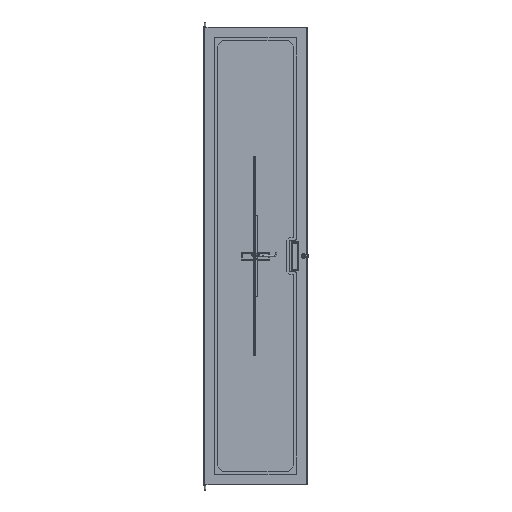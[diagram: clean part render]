
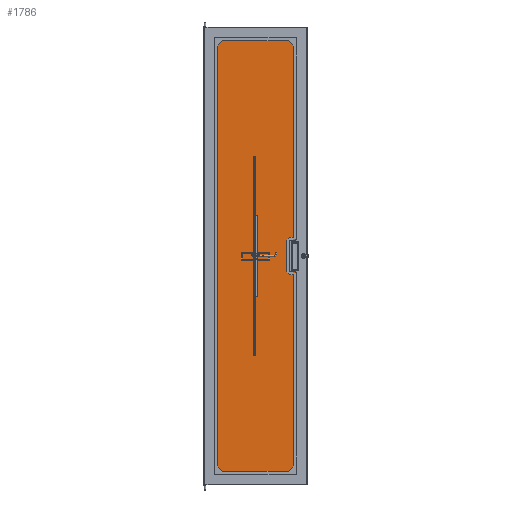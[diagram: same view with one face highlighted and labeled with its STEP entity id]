
A CAD part, front view. The second image highlights one B-rep face of the part: STEP entity #1786.
In plain terms, the highlighted planar face has unit normal (0, -1, 0).
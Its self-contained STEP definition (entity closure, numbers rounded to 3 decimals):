
#1786 = ADVANCED_FACE( '', ( #2587 ), #2588, .T. );
#2587 = FACE_OUTER_BOUND( '', #3609, .T. );
#2588 = PLANE( '', #3610 );
#3609 = EDGE_LOOP( '', ( #5954, #5955, #5956, #5957, #5958, #5959, #5960, #5961, #5962, #5963, #5964, #5965 ) );
#3610 = AXIS2_PLACEMENT_3D( '', #5966, #5967, #5968 );
#5954 = ORIENTED_EDGE( '', *, *, #6967, .T. );
#5955 = ORIENTED_EDGE( '', *, *, #6971, .T. );
#5956 = ORIENTED_EDGE( '', *, *, #6974, .T. );
#5957 = ORIENTED_EDGE( '', *, *, #6975, .T. );
#5958 = ORIENTED_EDGE( '', *, *, #6976, .T. );
#5959 = ORIENTED_EDGE( '', *, *, #6977, .T. );
#5960 = ORIENTED_EDGE( '', *, *, #6978, .T. );
#5961 = ORIENTED_EDGE( '', *, *, #6979, .T. );
#5962 = ORIENTED_EDGE( '', *, *, #6980, .T. );
#5963 = ORIENTED_EDGE( '', *, *, #6981, .T. );
#5964 = ORIENTED_EDGE( '', *, *, #6982, .T. );
#5965 = ORIENTED_EDGE( '', *, *, #6983, .T. );
#5966 = CARTESIAN_POINT( '', ( 187.325, 0., -81.756 ) );
#5967 = DIRECTION( '', ( 0., -1., 0. ) );
#5968 = DIRECTION( '', ( 0., 0., -1. ) );
#6967 = EDGE_CURVE( '', #8192, #8193, #8194, .T. );
#6971 = EDGE_CURVE( '', #8193, #8200, #8201, .T. );
#6974 = EDGE_CURVE( '', #8200, #8205, #8206, .T. );
#6975 = EDGE_CURVE( '', #8205, #8207, #8208, .T. );
#6976 = EDGE_CURVE( '', #8207, #8209, #8210, .T. );
#6977 = EDGE_CURVE( '', #8209, #8211, #8212, .T. );
#6978 = EDGE_CURVE( '', #8211, #8213, #8214, .T. );
#6979 = EDGE_CURVE( '', #8213, #8215, #8216, .T. );
#6980 = EDGE_CURVE( '', #8215, #8217, #8218, .T. );
#6981 = EDGE_CURVE( '', #8217, #8219, #8220, .T. );
#6982 = EDGE_CURVE( '', #8219, #8221, #8222, .T. );
#6983 = EDGE_CURVE( '', #8221, #8192, #8223, .T. );
#8192 = VERTEX_POINT( '', #10096 );
#8193 = VERTEX_POINT( '', #10097 );
#8194 = LINE( '', #10098, #10099 );
#8200 = VERTEX_POINT( '', #10108 );
#8201 = LINE( '', #10109, #10110 );
#8205 = VERTEX_POINT( '', #10116 );
#8206 = LINE( '', #10117, #10118 );
#8207 = VERTEX_POINT( '', #10119 );
#8208 = CIRCLE( '', #10120, 6.35 );
#8209 = VERTEX_POINT( '', #10121 );
#8210 = LINE( '', #10122, #10123 );
#8211 = VERTEX_POINT( '', #10124 );
#8212 = CIRCLE( '', #10125, 6.35 );
#8213 = VERTEX_POINT( '', #10126 );
#8214 = LINE( '', #10127, #10128 );
#8215 = VERTEX_POINT( '', #10129 );
#8216 = CIRCLE( '', #10130, 6.35 );
#8217 = VERTEX_POINT( '', #10131 );
#8218 = LINE( '', #10132, #10133 );
#8219 = VERTEX_POINT( '', #10134 );
#8220 = CIRCLE( '', #10135, 6.35 );
#8221 = VERTEX_POINT( '', #10136 );
#8222 = LINE( '', #10137, #10138 );
#8223 = LINE( '', #10139, #10140 );
#10096 = CARTESIAN_POINT( '', ( -193.675, 0., 1034.263 ) );
#10097 = CARTESIAN_POINT( '', ( -193.675, 0., -1034.263 ) );
#10098 = CARTESIAN_POINT( '', ( -193.675, 0., 1034.263 ) );
#10099 = VECTOR( '', #11515, 1000. );
#10108 = CARTESIAN_POINT( '', ( 193.675, 0., -1034.263 ) );
#10109 = CARTESIAN_POINT( '', ( -193.675, 0., -1034.263 ) );
#10110 = VECTOR( '', #11519, 1000. );
#10116 = CARTESIAN_POINT( '', ( 193.675, 0., -81.756 ) );
#10117 = CARTESIAN_POINT( '', ( 193.675, 0., -1034.263 ) );
#10118 = VECTOR( '', #11522, 1000. );
#10119 = CARTESIAN_POINT( '', ( 187.325, 0., -75.406 ) );
#10120 = AXIS2_PLACEMENT_3D( '', #11523, #11524, #11525 );
#10121 = CARTESIAN_POINT( '', ( 169.863, 0., -75.406 ) );
#10122 = CARTESIAN_POINT( '', ( 187.325, 0., -75.406 ) );
#10123 = VECTOR( '', #11526, 1000. );
#10124 = CARTESIAN_POINT( '', ( 163.513, 0., -69.056 ) );
#10125 = AXIS2_PLACEMENT_3D( '', #11527, #11528, #11529 );
#10126 = CARTESIAN_POINT( '', ( 163.513, 0., 69.056 ) );
#10127 = CARTESIAN_POINT( '', ( 163.513, 0., 69.056 ) );
#10128 = VECTOR( '', #11530, 1000. );
#10129 = CARTESIAN_POINT( '', ( 169.863, 0., 75.406 ) );
#10130 = AXIS2_PLACEMENT_3D( '', #11531, #11532, #11533 );
#10131 = CARTESIAN_POINT( '', ( 187.325, 0., 75.406 ) );
#10132 = CARTESIAN_POINT( '', ( 187.325, 0., 75.406 ) );
#10133 = VECTOR( '', #11534, 1000. );
#10134 = CARTESIAN_POINT( '', ( 193.675, 0., 81.756 ) );
#10135 = AXIS2_PLACEMENT_3D( '', #11535, #11536, #11537 );
#10136 = CARTESIAN_POINT( '', ( 193.675, 0., 1034.263 ) );
#10137 = CARTESIAN_POINT( '', ( 193.675, 0., 81.756 ) );
#10138 = VECTOR( '', #11538, 1000. );
#10139 = CARTESIAN_POINT( '', ( 193.675, 0., 1034.263 ) );
#10140 = VECTOR( '', #11539, 1000. );
#11515 = DIRECTION( '', ( 0., 0., -1. ) );
#11519 = DIRECTION( '', ( 1., 0., 0. ) );
#11522 = DIRECTION( '', ( 0., 0., 1. ) );
#11523 = CARTESIAN_POINT( '', ( 187.325, 0., -81.756 ) );
#11524 = DIRECTION( '', ( 0., -1., 0. ) );
#11525 = DIRECTION( '', ( -1., 0., 0. ) );
#11526 = DIRECTION( '', ( -1., 0., 0. ) );
#11527 = CARTESIAN_POINT( '', ( 169.863, 0., -69.056 ) );
#11528 = DIRECTION( '', ( 0., 1., 0. ) );
#11529 = DIRECTION( '', ( 1., 0., 0. ) );
#11530 = DIRECTION( '', ( 0., 0., 1. ) );
#11531 = CARTESIAN_POINT( '', ( 169.863, 0., 69.056 ) );
#11532 = DIRECTION( '', ( 0., 1., 0. ) );
#11533 = DIRECTION( '', ( 1., 0., 0. ) );
#11534 = DIRECTION( '', ( 1., 0., 0. ) );
#11535 = CARTESIAN_POINT( '', ( 187.325, 0., 81.756 ) );
#11536 = DIRECTION( '', ( 0., -1., 0. ) );
#11537 = DIRECTION( '', ( -1., 0., 0. ) );
#11538 = DIRECTION( '', ( 0., 0., 1. ) );
#11539 = DIRECTION( '', ( -1., 0., 0. ) );
